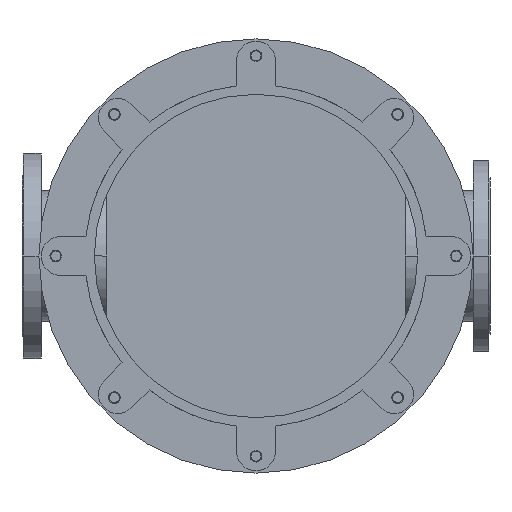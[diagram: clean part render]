
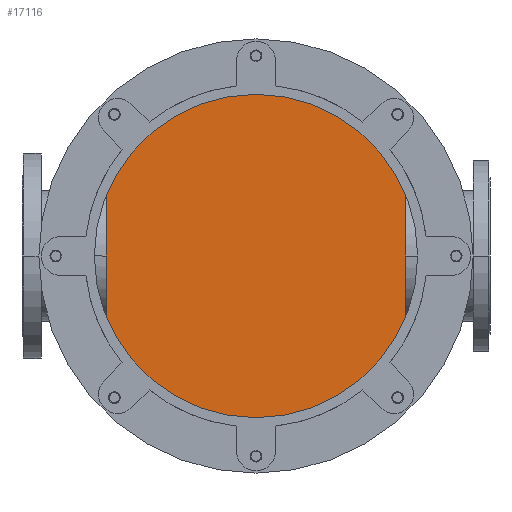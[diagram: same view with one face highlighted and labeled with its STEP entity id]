
A CAD part, front view. The second image highlights one B-rep face of the part: STEP entity #17116.
In plain terms, the highlighted planar face has unit normal (0, -1, 0).
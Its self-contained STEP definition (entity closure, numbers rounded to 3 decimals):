
#5053=CARTESIAN_POINT('',(0.,1204.,0.));
#5054=DIRECTION('',(0.,-1.,0.));
#5055=DIRECTION('',(0.,0.,1.));
#5056=AXIS2_PLACEMENT_3D('',#5053,#5054,#5055);
#5182=CARTESIAN_POINT('',(0.,1204.,0.));
#5183=DIRECTION('',(0.,-1.,0.));
#5184=DIRECTION('',(0.,0.,-1.));
#5185=AXIS2_PLACEMENT_3D('',#5182,#5183,#5184);
#9213=CARTESIAN_POINT('',(0.,1204.,350.));
#9214=CARTESIAN_POINT('',(0.,1204.,-350.));
#9215=VERTEX_POINT('',#9213);
#9216=VERTEX_POINT('',#9214);
#17106=CARTESIAN_POINT('',(0.,1204.,0.));
#17107=DIRECTION('',(0.,1.,0.));
#17108=DIRECTION('',(0.,0.,-1.));
#17109=AXIS2_PLACEMENT_3D('',#17106,#17107,#17108);
#17110=PLANE('',#17109);
#17111=ORIENTED_EDGE('',*,*,#17090,.F.);
#17113=ORIENTED_EDGE('',*,*,#17112,.F.);
#17114=EDGE_LOOP('',(#17111,#17113));
#17115=FACE_OUTER_BOUND('',#17114,.F.);
#17116=ADVANCED_FACE('',(#17115),#17110,.F.);
#5057=CIRCLE('',#5056,350.);
#5186=CIRCLE('',#5185,350.);
#17090=EDGE_CURVE('',#9215,#9216,#5057,.T.);
#17112=EDGE_CURVE('',#9216,#9215,#5186,.T.);
